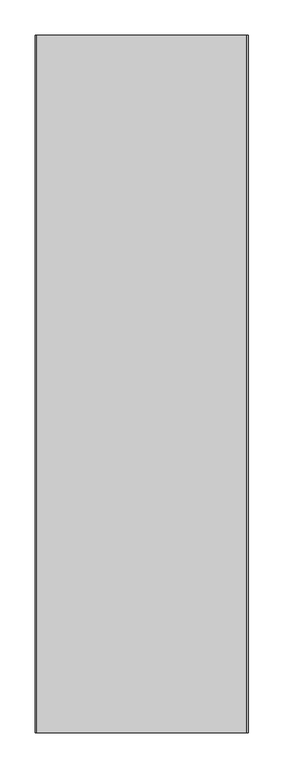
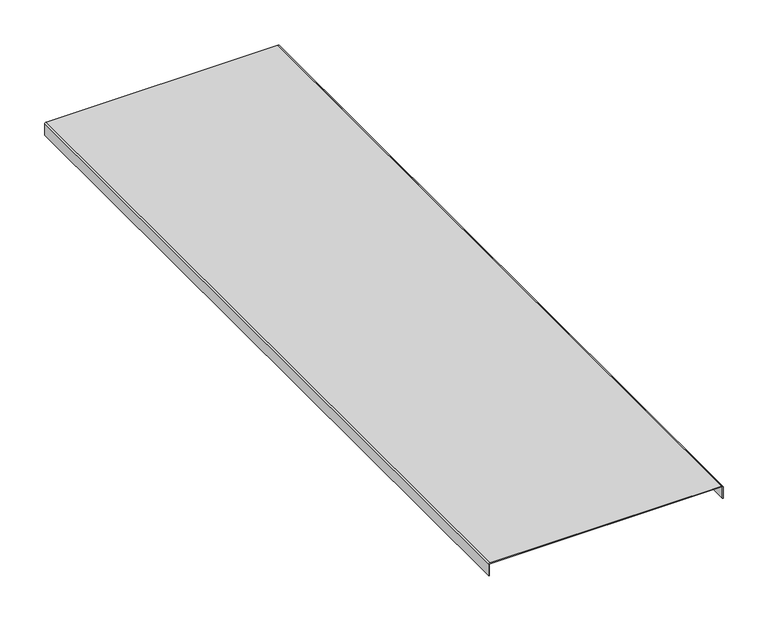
"""IFC4 building model written with IfcOpenShell, lengths in millimetres: proxy geometry, Cable_Tray_Cover_CT_Basorcanal : Basorcanal CT 100X300 (cover)."""

from ifc_helpers import new_model, si_unit, point, frame, frame_2d, origin, place, context, project, spatial, polyline, circle_curve, trimmed, segment, composite_curve, outline, extrude, source, transform, mapped, element, save


def generic_models_9c656804(model_context):
    return source(origin(), model_context, "Body", "SweptSolid", [
        extrude(outline(composite_curve([segment(trimmed(circle_curve(frame_2d((-1.0, -149.0)), 1.0), [point((-1.0, -150.0))], [point((0.0, -149.0))], True, "CARTESIAN"), True, "CONTINUOUS"), segment(polyline([(0.0, -149.0), (0.0, 149.0)]), True, "CONTINUOUS"), segment(trimmed(circle_curve(frame_2d((-1.0, 149.0)), 1.0), [point((0.0, 149.0))], [point((-1.0, 150.0))], True, "CARTESIAN"), True, "CONTINUOUS"), segment(polyline([(-1.0, 150.0), (-16.0, 150.0), (-16.0, 151.0), (-1.0, 151.0)]), True, "CONTINUOUS"), segment(trimmed(circle_curve(frame_2d((-1.0, 149.0)), 2.0), [point((-1.0, 151.0))], [point((1.0, 149.0))], False, "CARTESIAN"), True, "CONTINUOUS"), segment(polyline([(1.0, 149.0), (1.0, -149.0)]), True, "CONTINUOUS"), segment(trimmed(circle_curve(frame_2d((-1.0, -149.0)), 2.0), [point((1.0, -149.0))], [point((-1.0, -151.0))], False, "CARTESIAN"), True, "CONTINUOUS"), segment(polyline([(-1.0, -151.0), (-16.0, -151.0), (-16.0, -150.0), (-1.0, -150.0)]), True, "CONTINUOUS")], self_intersect=False)), frame((0.0, 0.0, 0.0), z_axis=(0.0, 1.0, 0.0), x_axis=(0.0, 0.0, 1.0)), (0.0, 0.0, 1.0), 989.0),
    ])


if __name__ == "__main__":
    model = new_model("IFC4")
    model_context = context("Model", 3, world=origin())
    ifc_project = project(units=[si_unit("LENGTHUNIT", "METRE", prefix="MILLI")], contexts=[model_context])
    site = spatial("IfcSite", under=ifc_project)
    building = spatial("IfcBuilding", under=site)
    placement = place(None, origin())
    generic_models_shape = generic_models_9c656804(model_context)
    element("IfcBuildingElementProxy", 1, Name="Cable_Tray_Cover_CT_Basorcanal : Basorcanal CT 100X300 (cover)", ObjectType="Cable_Tray_Cover_CT_Basorcanal : Basorcanal CT 100X300 (cover)", at=placement, inside=building, context=model_context, shape_type="MappedRepresentation", body=[
        mapped(generic_models_shape, transform((0.0, 0.0, 0.0), x_axis=(1.0, 0.0, 0.0), y_axis=(0.0, 1.0, 0.0), z_axis=(0.0, 0.0, 1.0))),
    ])
    save(model, "model.ifc")
